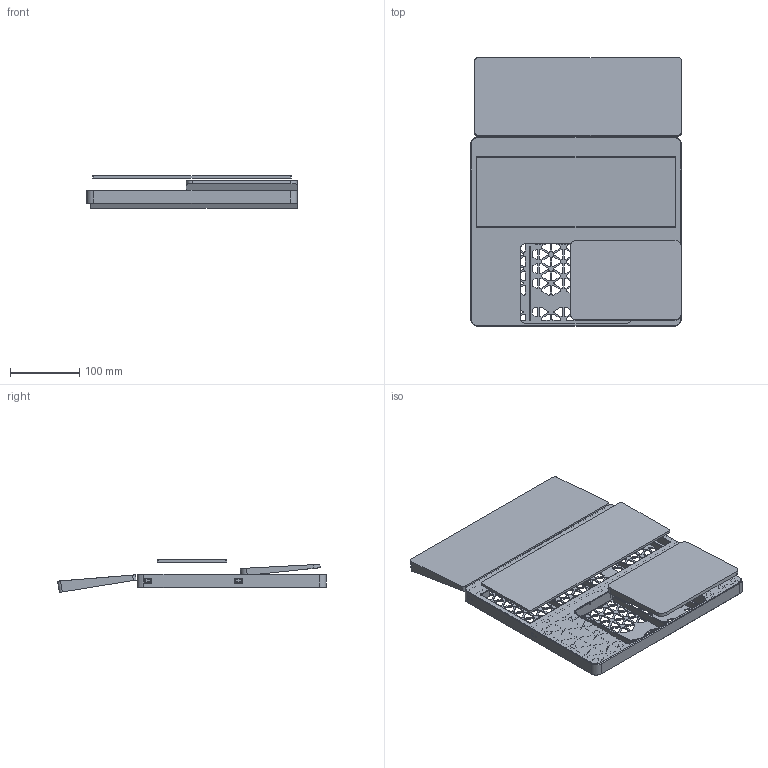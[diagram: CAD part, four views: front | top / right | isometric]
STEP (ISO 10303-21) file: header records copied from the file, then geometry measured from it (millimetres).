
FILE_DESCRIPTION(('Open CASCADE Model'),'2;1');
FILE_NAME('joro_trackpad_deck_v9','2026-11-19T00:45:38',('Author'),( 'Open CASCADE'),'Open CASCADE STEP processor 8.0','build123d', 'Unknown');
FILE_SCHEMA(('AUTOMOTIVE_DESIGN { 1 0 10303 214 1 1 1 1 }'));
Length unit declared in the file: millimetre
Products named in the file (8): joro_trackpad_deck_v9; top_case; bottom_cover; joro_envelope; joro_keycaps_envelope; trackpad_envelope; usbc_module_trackpad_envelope; usbc_module_keyboard_envelope
Assembly tree (7 placements, depth 2):
  joro_trackpad_deck_v9
    top_case
    bottom_cover
    joro_envelope
    joro_keycaps_envelope
    trackpad_envelope
    usbc_module_trackpad_envelope
    usbc_module_keyboard_envelope
Bounding box: 303.6 x 387.76 x 47.36 mm (x, y, z)
Volume: 934817.7 mm3; surface area: 527167.8 mm2
Topology: 7 solids, 7 shells, 2969 faces, 8498 edges, 5647 vertices
Faces by surface type: plane 1629, cylinder 1292, cone 48
Full cylindrical faces by diameter (mm): 3.4 x24, 4.2 x24, 7.5 x2, 10.5 x3
Entity records: 211820 total; most frequent: CARTESIAN_POINT 53874, DIRECTION 26533, ORIENTED_EDGE 16996, PCURVE 16996, DEFINITIONAL_REPRESENTATION 16996, LINE 15076, VECTOR 15076, EDGE_CURVE 8498
